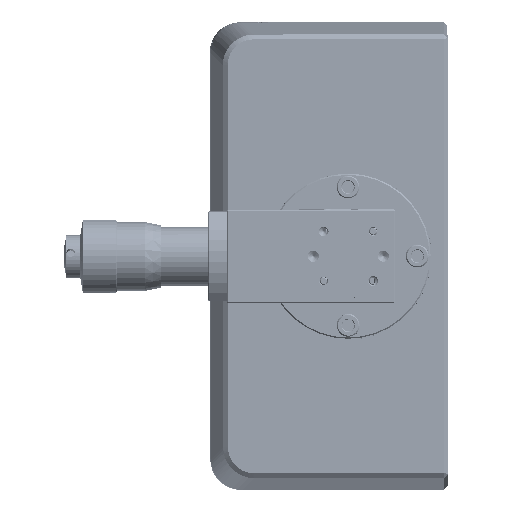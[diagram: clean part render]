
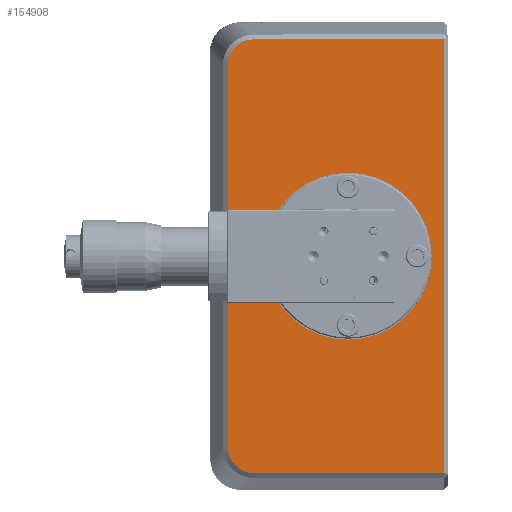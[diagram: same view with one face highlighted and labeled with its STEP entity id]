
A CAD part, left-side view. The second image highlights one B-rep face of the part: STEP entity #154908.
In plain terms, the highlighted planar face has unit normal (-1, -0.002, -0.001).
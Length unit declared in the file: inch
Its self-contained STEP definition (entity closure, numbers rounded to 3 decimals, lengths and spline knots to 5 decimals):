
#798 = DIRECTION ( 'NONE',  ( 0.001, -0.001, -1. ) ) ;
#1292 = CARTESIAN_POINT ( 'NONE',  ( -0.0937, -6.66383, -2.87638 ) ) ;
#2771 = CARTESIAN_POINT ( 'NONE',  ( -0.09372, -6.6638, -2.8489 ) ) ;
#10044 = CARTESIAN_POINT ( 'NONE',  ( -0.09532, -6.68593, 0.31891 ) ) ;
#13395 = DIRECTION ( 'NONE',  ( 0.001, -0.001, -1. ) ) ;
#18674 = DIRECTION ( 'NONE',  ( -1., -0.002, -0.001 ) ) ;
#19709 = VERTEX_POINT ( 'NONE', #28916 ) ;
#20585 = AXIS2_PLACEMENT_3D ( 'NONE', #216244, #123794, #13395 ) ;
#26507 = ORIENTED_EDGE ( 'NONE', *, *, #117783, .F. ) ;
#28916 = CARTESIAN_POINT ( 'NONE',  ( -0.09328, -6.87299, -3.05755 ) ) ;
#36884 = VECTOR ( 'NONE', #180893, 39.37008 ) ;
#36894 = CARTESIAN_POINT ( 'NONE',  ( -0.09372, -6.6638, -2.8489 ) ) ;
#43771 = LINE ( 'NONE', #177993, #36884 ) ;
#56313 = CARTESIAN_POINT ( 'NONE',  ( -0.09527, -6.73984, 0.38072 ) ) ;
#61531 = CARTESIAN_POINT ( 'NONE',  ( -0.093, -7.62689, -1.31649 ) ) ;
#67828 = VERTEX_POINT ( 'NONE', #106171 ) ;
#72341 = ORIENTED_EDGE ( 'NONE', *, *, #128690, .T. ) ;
#72663 = VECTOR ( 'NONE', #235916, 39.37008 ) ;
#74355 = CARTESIAN_POINT ( 'NONE',  ( -0.09346, -6.7675, -3.03145 ) ) ;
#78667 = CARTESIAN_POINT ( 'NONE',  ( -0.09531, -6.65983, 0.21342 ) ) ;
#80125 = CARTESIAN_POINT ( 'NONE',  ( -0.09524, -6.76305, 0.39624 ) ) ;
#88880 = ORIENTED_EDGE ( 'NONE', *, *, #247115, .T. ) ;
#89534 = VERTEX_POINT ( 'NONE', #284623 ) ;
#96754 = CARTESIAN_POINT ( 'NONE',  ( -0.09362, -6.69017, -2.95432 ) ) ;
#97060 = FACE_BOUND ( 'NONE', #127128, .T. ) ;
#102063 = VECTOR ( 'NONE', #115322, 39.37008 ) ;
#106171 = CARTESIAN_POINT ( 'NONE',  ( -0.09266, -7.62776, -1.98649 ) ) ;
#109643 = DIRECTION ( 'NONE',  ( -0.001, 0.001, 1. ) ) ;
#113164 = EDGE_CURVE ( 'NONE', #67828, #233359, #291076, .T. ) ;
#114977 = EDGE_CURVE ( 'NONE', #286510, #226897, #137709, .T. ) ;
#115322 = DIRECTION ( 'NONE',  ( -0.002, 1., -0.001 ) ) ;
#117783 = EDGE_CURVE ( 'NONE', #233359, #67828, #216365, .T. ) ;
#118126 = CARTESIAN_POINT ( 'NONE',  ( -0.09531, -6.65983, 0.21342 ) ) ;
#121597 = EDGE_CURVE ( 'NONE', #89534, #286510, #43771, .T. ) ;
#123364 = CARTESIAN_POINT ( 'NONE',  ( -0.09533, -6.66519, 0.26841 ) ) ;
#123794 = DIRECTION ( 'NONE',  ( 1., 0.002, 0.001 ) ) ;
#126315 = CARTESIAN_POINT ( 'NONE',  ( -0.09518, -6.8135, 0.4171 ) ) ;
#127128 = EDGE_LOOP ( 'NONE', ( #26507, #189221 ) ) ;
#128690 = EDGE_CURVE ( 'NONE', #226897, #246090, #220539, .T. ) ;
#137709 = LINE ( 'NONE', #206319, #102063 ) ;
#141052 = EDGE_CURVE ( 'NONE', #151203, #19709, #173630, .T. ) ;
#143537 = CARTESIAN_POINT ( 'NONE',  ( -0.09233, -7.47915, -3.05676 ) ) ;
#147478 = CARTESIAN_POINT ( 'NONE',  ( -0.09335, -7.62602, -0.64649 ) ) ;
#148626 = CARTESIAN_POINT ( 'NONE',  ( -0.09509, -6.86848, 0.42261 ) ) ;
#151203 = VERTEX_POINT ( 'NONE', #36894 ) ;
#152120 = ORIENTED_EDGE ( 'NONE', *, *, #141052, .T. ) ;
#154908 = ADVANCED_FACE ( 'NONE', ( #189449, #97060 ), #187991, .F. ) ;
#160473 = VECTOR ( 'NONE', #798, 39.37008 ) ;
#160879 = CARTESIAN_POINT ( 'NONE',  ( -0.09368, -6.6693, -2.90388 ) ) ;
#163797 = CARTESIAN_POINT ( 'NONE',  ( -0.0935, -6.74424, -3.01599 ) ) ;
#166883 = CARTESIAN_POINT ( 'NONE',  ( -0.09509, -6.86848, 0.42261 ) ) ;
#173630 = B_SPLINE_CURVE_WITH_KNOTS ( 'NONE', 3,
 ( #2771, #1292, #160879, #96754, #186219, #163797, #74355, #251767, #278523, #277051 ),
 .UNSPECIFIED., .F., .F.,
 ( 4, 2, 2, 2, 4 ),
 ( 0., 0.25, 0.5, 0.75, 1. ),
 .UNSPECIFIED. ) ;
#174856 = DIRECTION ( 'NONE',  ( -1., -0.002, -0.001 ) ) ;
#177993 = CARTESIAN_POINT ( 'NONE',  ( -0.0918, -8.39689, -1.31549 ) ) ;
#179803 = LINE ( 'NONE', #205109, #160473 ) ;
#180893 = DIRECTION ( 'NONE',  ( -0.001, 0.001, 1. ) ) ;
#186219 = CARTESIAN_POINT ( 'NONE',  ( -0.09358, -6.70569, -2.97754 ) ) ;
#187991 = PLANE ( 'NONE',  #20585 ) ;
#189221 = ORIENTED_EDGE ( 'NONE', *, *, #113164, .F. ) ;
#189449 = FACE_OUTER_BOUND ( 'NONE', #199821, .T. ) ;
#190477 = CARTESIAN_POINT ( 'NONE',  ( -0.09531, -6.70138, 0.34217 ) ) ;
#199821 = EDGE_LOOP ( 'NONE', ( #152120, #270552, #243261, #262394, #72341, #88880 ) ) ;
#200797 = AXIS2_PLACEMENT_3D ( 'NONE', #294278, #18674, #109643 ) ;
#205109 = CARTESIAN_POINT ( 'NONE',  ( -0.09451, -6.66181, -1.31774 ) ) ;
#206319 = CARTESIAN_POINT ( 'NONE',  ( -0.09414, -7.47463, 0.42339 ) ) ;
#216244 = CARTESIAN_POINT ( 'NONE',  ( -0.09324, -7.47689, -1.31668 ) ) ;
#216365 = CIRCLE ( 'NONE', #292375, 0.67 ) ;
#220539 = B_SPLINE_CURVE_WITH_KNOTS ( 'NONE', 3,
 ( #148626, #238090, #126315, #80125, #56313, #190477, #10044, #123364, #256047, #78667 ),
 .UNSPECIFIED., .F., .F.,
 ( 4, 2, 2, 2, 4 ),
 ( 0., 0.25, 0.5, 0.75, 1. ),
 .UNSPECIFIED. ) ;
#226897 = VERTEX_POINT ( 'NONE', #166883 ) ;
#233359 = VERTEX_POINT ( 'NONE', #147478 ) ;
#235916 = DIRECTION ( 'NONE',  ( 0.002, -1., 0.001 ) ) ;
#237477 = DIRECTION ( 'NONE',  ( -0.001, 0.001, 1. ) ) ;
#238090 = CARTESIAN_POINT ( 'NONE',  ( -0.09514, -6.84099, 0.42257 ) ) ;
#243261 = ORIENTED_EDGE ( 'NONE', *, *, #121597, .T. ) ;
#246090 = VERTEX_POINT ( 'NONE', #118126 ) ;
#247115 = EDGE_CURVE ( 'NONE', #246090, #151203, #179803, .T. ) ;
#251767 = CARTESIAN_POINT ( 'NONE',  ( -0.09337, -6.81799, -3.05219 ) ) ;
#256047 = CARTESIAN_POINT ( 'NONE',  ( -0.09532, -6.65979, 0.24096 ) ) ;
#257395 = EDGE_CURVE ( 'NONE', #19709, #89534, #282075, .T. ) ;
#262394 = ORIENTED_EDGE ( 'NONE', *, *, #114977, .T. ) ;
#270552 = ORIENTED_EDGE ( 'NONE', *, *, #257395, .T. ) ;
#277051 = CARTESIAN_POINT ( 'NONE',  ( -0.09328, -6.87299, -3.05755 ) ) ;
#278523 = CARTESIAN_POINT ( 'NONE',  ( -0.09332, -6.84545, -3.05758 ) ) ;
#282075 = LINE ( 'NONE', #143537, #72663 ) ;
#284623 = CARTESIAN_POINT ( 'NONE',  ( -0.09089, -8.39914, -3.05557 ) ) ;
#286235 = CARTESIAN_POINT ( 'NONE',  ( -0.09271, -8.39463, 0.42459 ) ) ;
#286510 = VERTEX_POINT ( 'NONE', #286235 ) ;
#291076 = CIRCLE ( 'NONE', #200797, 0.67 ) ;
#292375 = AXIS2_PLACEMENT_3D ( 'NONE', #61531, #174856, #237477 ) ;
#294278 = CARTESIAN_POINT ( 'NONE',  ( -0.093, -7.62689, -1.31649 ) ) ;
